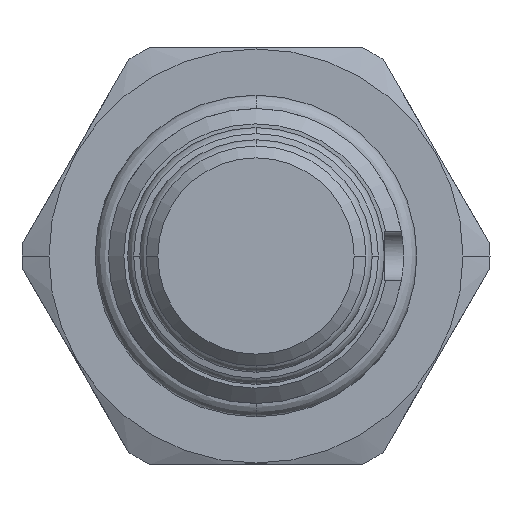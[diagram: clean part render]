
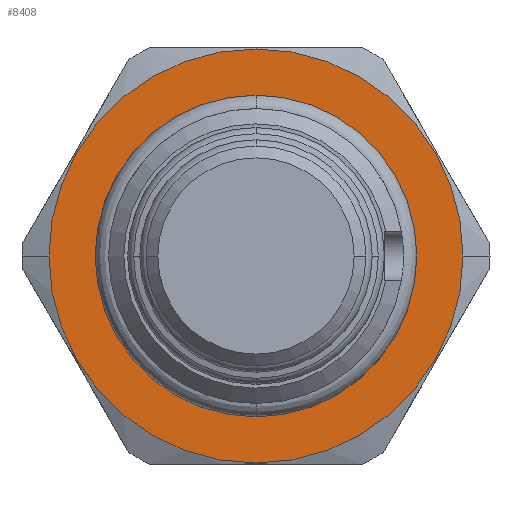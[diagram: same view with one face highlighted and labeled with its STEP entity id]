
A CAD part, front view. The second image highlights one B-rep face of the part: STEP entity #8408.
In plain terms, the highlighted planar face has unit normal (0, -1, 0).
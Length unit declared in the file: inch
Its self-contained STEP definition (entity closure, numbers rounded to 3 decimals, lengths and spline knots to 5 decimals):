
#2486=CARTESIAN_POINT('',(0.,0.,0.));
#2487=DIRECTION('',(0.,1.,0.));
#2488=DIRECTION('',(-1.,0.,0.));
#2489=AXIS2_PLACEMENT_3D('',#2486,#2487,#2488);
#2491=CARTESIAN_POINT('',(0.,0.,0.));
#2492=DIRECTION('',(0.,-1.,0.));
#2493=DIRECTION('',(-1.,0.,0.));
#2494=AXIS2_PLACEMENT_3D('',#2491,#2492,#2493);
#2496=CARTESIAN_POINT('',(0.,0.,0.));
#2497=DIRECTION('',(0.,1.,0.));
#2498=DIRECTION('',(-1.,0.,0.));
#2499=AXIS2_PLACEMENT_3D('',#2496,#2497,#2498);
#2501=CARTESIAN_POINT('',(0.,0.,0.));
#2502=DIRECTION('',(0.,1.,0.));
#2503=DIRECTION('',(1.,0.,0.));
#2504=AXIS2_PLACEMENT_3D('',#2501,#2502,#2503);
#5796=CARTESIAN_POINT('',(-0.5265,0.,0.));
#5798=VERTEX_POINT('',#5796);
#5800=CARTESIAN_POINT('',(0.5265,0.,0.));
#5802=VERTEX_POINT('',#5800);
#5811=CARTESIAN_POINT('',(-0.352,0.,0.));
#5812=CARTESIAN_POINT('',(0.352,0.,0.));
#5813=VERTEX_POINT('',#5811);
#5814=VERTEX_POINT('',#5812);
#8393=CARTESIAN_POINT('',(0.,0.,0.));
#8394=DIRECTION('',(0.,-1.,0.));
#8395=DIRECTION('',(1.,0.,0.));
#8396=AXIS2_PLACEMENT_3D('',#8393,#8394,#8395);
#8397=PLANE('',#8396);
#8399=ORIENTED_EDGE('',*,*,#8398,.T.);
#8401=ORIENTED_EDGE('',*,*,#8400,.F.);
#8402=EDGE_LOOP('',(#8399,#8401));
#8403=FACE_OUTER_BOUND('',#8402,.F.);
#8404=ORIENTED_EDGE('',*,*,#8387,.F.);
#8405=ORIENTED_EDGE('',*,*,#8351,.F.);
#8406=EDGE_LOOP('',(#8404,#8405));
#8407=FACE_BOUND('',#8406,.F.);
#8408=ADVANCED_FACE('',(#8403,#8407),#8397,.T.);
#2490=CIRCLE('',#2489,0.5265);
#2495=CIRCLE('',#2494,0.5265);
#2500=CIRCLE('',#2499,0.352);
#2505=CIRCLE('',#2504,0.352);
#8351=EDGE_CURVE('',#5814,#5813,#2505,.T.);
#8387=EDGE_CURVE('',#5813,#5814,#2500,.T.);
#8398=EDGE_CURVE('',#5798,#5802,#2490,.T.);
#8400=EDGE_CURVE('',#5798,#5802,#2495,.T.);
